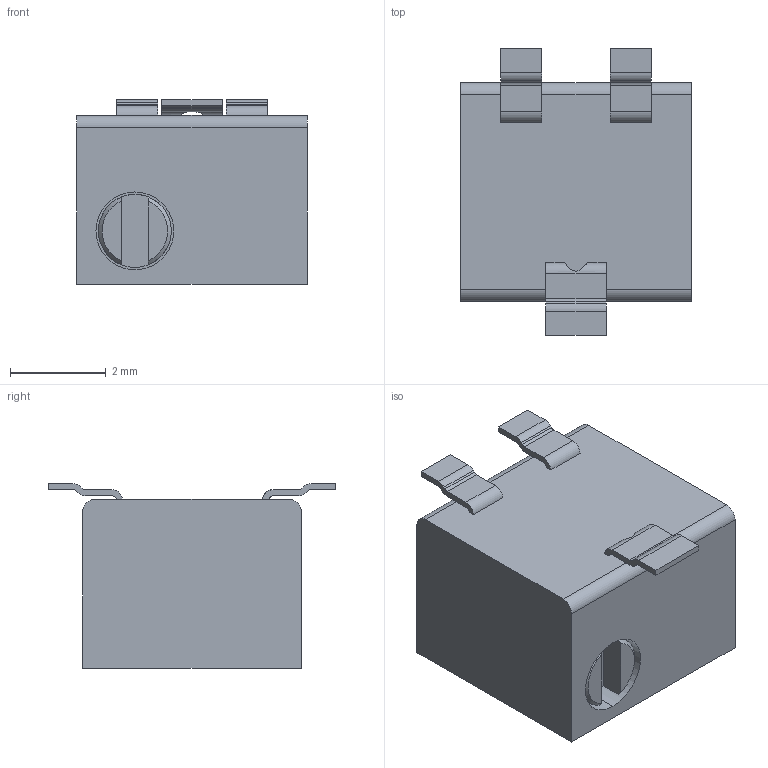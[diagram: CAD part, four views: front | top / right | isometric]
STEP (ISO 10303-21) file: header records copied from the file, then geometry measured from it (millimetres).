
FILE_DESCRIPTION (( 'STEP AP214' ), '1' );
FILE_NAME ('3214G-1-100E.STEP', '2025-03-01T17:13:56', ( '' ), ( '' ), 'SwSTEP 2.0', 'SolidWorks 2024', '' );
FILE_SCHEMA (( 'AUTOMOTIVE_DESIGN' ));
Length unit declared in the file: millimetre
Products named in the file (1): 3214G-1-100E
Bounding box: 4.83 x 5.99 x 3.86 mm (x, y, z)
Volume: 77.6 mm3; surface area: 129 mm2
Topology: 1 solids, 1 shells, 68 faces, 184 edges, 122 vertices
Faces by surface type: plane 39, cylinder 24, cone 4, bspline 1
Entity records: 2401 total; most frequent: CARTESIAN_POINT 510, ORIENTED_EDGE 368, DIRECTION 368, EDGE_CURVE 184, AXIS2_PLACEMENT_3D 124, VERTEX_POINT 122, LINE 120, VECTOR 120
